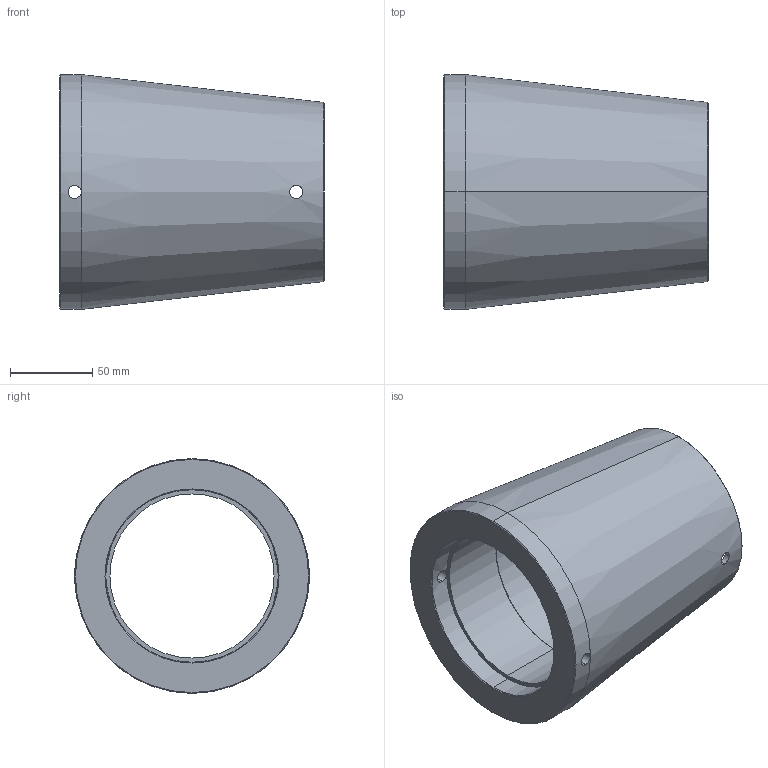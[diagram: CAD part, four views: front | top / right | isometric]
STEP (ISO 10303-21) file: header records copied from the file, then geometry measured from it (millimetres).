
FILE_DESCRIPTION (( 'STEP AP203' ), '1' );
FILE_NAME ('Abdeckhülse M100.STEP', '2018-02-20T06:55:45', ( 'install' ), ( 'Hewlett-Packard Company' ), 'SwSTEP 2.0', 'SolidWorks 2017', '' );
FILE_SCHEMA (( 'CONFIG_CONTROL_DESIGN' ));
Length unit declared in the file: millimetre
Products named in the file (1): Abdeckhülse M100
Bounding box: 161 x 143 x 143 mm (x, y, z)
Volume: 757343.3 mm3; surface area: 126311.8 mm2
Topology: 1 solids, 1 shells, 31 faces, 83 edges, 51 vertices
Faces by surface type: cylinder 18, cone 8, plane 5
Entity records: 1541 total; most frequent: CARTESIAN_POINT 694, ORIENTED_EDGE 164, DIRECTION 158, EDGE_CURVE 82, AXIS2_PLACEMENT_3D 66, VERTEX_POINT 50, EDGE_LOOP 38, CIRCLE 34
